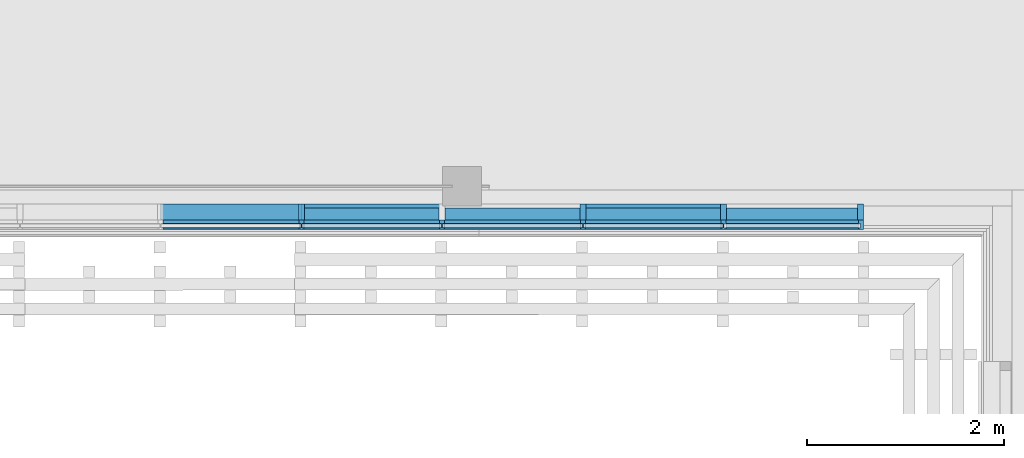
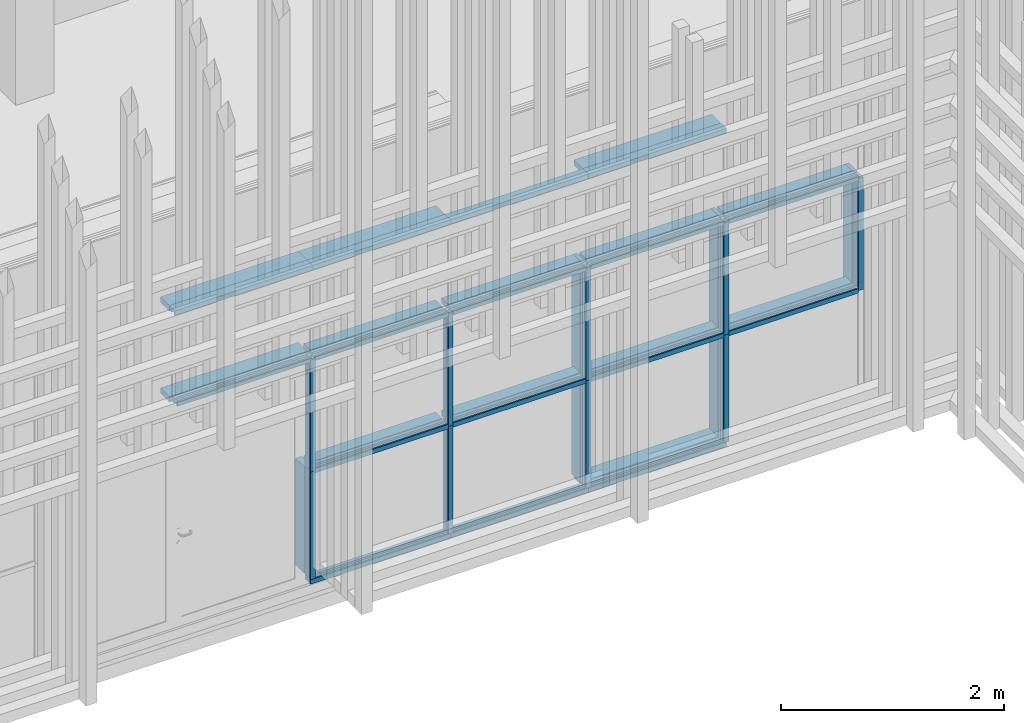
# One storey, part 27 of 260: 44 members, 2 elements without a shape of their own.
"""IFC2X3 building model written with IfcOpenShell, lengths in millimetres."""

from ifc_helpers import new_model, entity, si_unit, converted_unit, derived_unit, money_unit, direction, frame, origin_with_axes, place, context, subcontext, project, spatial, faceted_brep, source, transform, mapped, material, type_object, element, aggregate, save


model = new_model("IFC2X3")

# Units and contexts
model_context = context("Model", 3, precision=0.01, world=origin_with_axes(), true_north=direction((0.0, 1.0)))
body_context = subcontext(model_context, "Body", "Model", "MODEL_VIEW")
ifc_project = project(units=[si_unit("LENGTHUNIT", "METRE", prefix="MILLI"), si_unit("AREAUNIT", "SQUARE_METRE"), si_unit("VOLUMEUNIT", "CUBIC_METRE"), converted_unit("PLANEANGLEUNIT", "DEGREE", entity("IfcPlaneAngleMeasure", 0.0174532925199), si_unit("PLANEANGLEUNIT", "RADIAN"), dimensions=[0, 0, 0, 0, 0, 0, 0]), money_unit("EUR"), converted_unit("TIMEUNIT", "Year", entity("IfcTimeMeasure", 31556926.0), si_unit("TIMEUNIT", "SECOND"), dimensions=[0, 0, 1, 0, 0, 0, 0]), si_unit("MASSUNIT", "GRAM", prefix="KILO"), si_unit("THERMODYNAMICTEMPERATUREUNIT", "DEGREE_CELSIUS"), si_unit("LUMINOUSINTENSITYUNIT", "LUMEN"), si_unit("ENERGYUNIT", "JOULE", prefix="MEGA"), derived_unit("THERMALCONDUCTANCEUNIT", [(si_unit("POWERUNIT", "WATT"), 1), (si_unit("LENGTHUNIT", "METRE"), -1), (si_unit("THERMODYNAMICTEMPERATUREUNIT", "KELVIN"), -1)]), derived_unit("SPECIFICHEATCAPACITYUNIT", [(si_unit("ENERGYUNIT", "JOULE"), 1), (si_unit("MASSUNIT", "GRAM", prefix="KILO"), -1), (si_unit("THERMODYNAMICTEMPERATUREUNIT", "KELVIN"), -1)]), derived_unit("MASSDENSITYUNIT", [(si_unit("MASSUNIT", "GRAM", prefix="KILO"), 1), (si_unit("VOLUMEUNIT", "CUBIC_METRE"), -1)])], contexts=[model_context])

# Site, building, storey
site_placement = place(None, origin_with_axes())
site = spatial("IfcSite", under=ifc_project, at=site_placement, Name="Kolde pst 67a", CompositionType="ELEMENT")
building_placement = place(site_placement, origin_with_axes())
building = spatial("IfcBuilding", under=site, at=building_placement, Name="Riigigümnaasium", CompositionType="ELEMENT")
storey_placement = place(building_placement, origin_with_axes())
storey = spatial("IfcBuildingStorey", under=building, at=storey_placement, Name="1. korrus", CompositionType="ELEMENT", Elevation=0.0)

# Curtain wall, members
curtain_wall_type = type_object("IfcCurtainWallType", Name="Curtain Wall Type", PredefinedType="NOTDEFINED")
curtain_wall_1_placement = place(storey_placement, frame((20393.1746439, 47839.7660528, -0.000116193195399), z_axis=(0.0, 0.0, 1.0), x_axis=(1.0, 0.0, 0.0)))
curtain_wall_1 = element("IfcCurtainWall", 1, at=curtain_wall_1_placement, inside=storey, type_object=curtain_wall_type, Name="KLAASFASSAAD")
ifc_material_1 = material(Name="_METALL - alumiinium")
member_type_1 = type_object("IfcMemberType", Name="Boundary Frame 50 x 100", PredefinedType="MEMBER")
shared_shape_1 = source(origin_with_axes(), body_context, "Body", "Brep", [
    faceted_brep([(-30.0, -24.0, 1430.0), (-50.0, -24.0, 1430.0), (-50.0, -60.0, 1430.0), (0.0, -60.0, 1430.0), (0.0, 40.0, 1430.0), (-50.0, 40.0, 1430.0), (-50.0, 24.0, 1430.0), (-30.0, 24.0, 1430.0), (-30.0, -24.0, 0.0), (-50.0, -24.0, 0.0), (-50.0, -60.0, 0.0), (0.0, -60.0, 0.0), (0.0, 40.0, 0.0), (-50.0, 40.0, 0.0), (-50.0, 24.0, 0.0), (-30.0, 24.0, 0.0)], [[[0, 1, 2, 3, 4, 5, 6, 7]], [[0, 8, 9, 1]], [[9, 10, 2, 1]], [[10, 11, 3, 2]], [[11, 12, 4, 3]], [[12, 13, 5, 4]], [[6, 5, 13, 14]], [[14, 15, 7, 6]], [[7, 15, 8, 0]], [[8, 15, 14, 13, 12, 11, 10, 9]]]),
])
member_1_placement = place(curtain_wall_1_placement, frame((715.0, 0.0, 0.0), z_axis=(-1.0, 0.0, 0.0), x_axis=(0.0, 0.0, 1.0)))
member_1 = element("IfcMember", 2, at=member_1_placement, type_object=member_type_1, material=ifc_material_1, Name="RF RAAM SERV-702", ObjectType="MEMBER", context=body_context, shape_type="MappedRepresentation", body=[
    mapped(shared_shape_1, transform((0.0, 0.0, 0.0), x_axis=(-1.0, 0.0, 0.0), y_axis=(0.0, -1.0, 0.0), z_axis=(0.0, 0.0, 1.0))),
])
member_2_placement = place(curtain_wall_1_placement, frame((-715.0, 0.0, 0.0), z_axis=(-1.0, 0.0, 0.0), x_axis=(0.0, 0.0, 1.0)))
member_2 = element("IfcMember", 3, at=member_2_placement, type_object=member_type_1, material=ifc_material_1, Name="RF RAAM SERV-703", ObjectType="MEMBER", context=body_context, shape_type="MappedRepresentation", body=[
    mapped(shared_shape_1, transform((0.0, 0.0, 0.0), x_axis=(-1.0, 0.0, 0.0), y_axis=(0.0, -1.0, 0.0), z_axis=(0.0, 0.0, 1.0))),
])
member_3_placement = place(curtain_wall_1_placement, frame((-715.0, 0.0, 3490.00021117), z_axis=(1.0, 0.0, -4.73288873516e-08), x_axis=(-4.73288873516e-08, 0.0, -1.0)))
member_3 = element("IfcMember", 4, at=member_3_placement, type_object=member_type_1, material=ifc_material_1, Name="RF RAAM SERV-718", ObjectType="MEMBER", context=body_context, shape_type="MappedRepresentation", body=[
    mapped(shared_shape_1, transform((0.0, 0.0, 0.0), x_axis=(-1.0, 0.0, -4.73288873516e-08), y_axis=(0.0, -1.0, 0.0), z_axis=(-4.73288873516e-08, 0.0, 1.0))),
])
member_4_placement = place(curtain_wall_1_placement, frame((-2145.0, 0.0, 3490.00021117), z_axis=(1.0, 0.0, 0.0), x_axis=(0.0, 0.0, -1.0)))
member_4 = element("IfcMember", 5, at=member_4_placement, type_object=member_type_1, material=ifc_material_1, Name="RF RAAM SERV-717", ObjectType="MEMBER", context=body_context, shape_type="MappedRepresentation", body=[
    mapped(shared_shape_1, transform((0.0, 0.0, 0.0), x_axis=(-1.0, 0.0, 0.0), y_axis=(0.0, -1.0, 0.0), z_axis=(0.0, 0.0, 1.0))),
])
member_5_placement = place(curtain_wall_1_placement, frame((-3575.0, 0.0, 3490.00021117), z_axis=(1.0, 0.0, 0.0), x_axis=(0.0, 0.0, -1.0)))
member_5 = element("IfcMember", 6, at=member_5_placement, type_object=member_type_1, material=ifc_material_1, Name="RF RAAM SERV-716", ObjectType="MEMBER", context=body_context, shape_type="MappedRepresentation", body=[
    mapped(shared_shape_1, transform((0.0, 0.0, 0.0), x_axis=(-1.0, 0.0, 0.0), y_axis=(0.0, -1.0, 0.0), z_axis=(0.0, 0.0, 1.0))),
])
member_6_placement = place(curtain_wall_1_placement, frame((-5005.0, 0.0, 3490.00021117), z_axis=(1.0, 0.0, 0.0), x_axis=(0.0, 0.0, -1.0)))
member_6 = element("IfcMember", 7, at=member_6_placement, type_object=member_type_1, material=ifc_material_1, Name="RF RAAM SERV-715", ObjectType="MEMBER", context=body_context, shape_type="MappedRepresentation", body=[
    mapped(shared_shape_1, transform((0.0, 0.0, 0.0), x_axis=(-1.0, 0.0, 0.0), y_axis=(0.0, -1.0, 0.0), z_axis=(0.0, 0.0, 1.0))),
])
member_type_2 = type_object("IfcMemberType", Name="Mullion Frame 50 x 100", PredefinedType="MEMBER")
shared_shape_2 = source(origin_with_axes(), body_context, "Body", "Brep", [
    faceted_brep([(5.0, -24.0, 1230.00011619), (5.0, 24.0, 1230.00011619), (25.0, 24.0, 1230.00011619), (25.0, 40.0, 1230.00011619), (-25.0, 40.0, 1230.00011619), (-25.0, 24.0, 1230.00011619), (-5.0, 24.0, 1230.00011619), (-5.0, -24.0, 1230.00011619), (-25.0, -24.0, 1230.00011619), (-25.0, -60.0, 1230.00011619), (25.0, -60.0, 1230.00011619), (25.0, -24.0, 1230.00011619), (5.0, -24.0, 50.0), (5.0, 24.0, 50.0), (25.0, 24.0, 50.0), (25.0, 40.0, 50.0), (-25.0, 40.0, 50.0), (-25.0, 24.0, 50.0), (-5.0, 24.0, 50.0), (-5.0, -24.0, 50.0), (-25.0, -24.0, 50.0), (-25.0, -60.0, 50.0), (25.0, -60.0, 50.0), (25.0, -24.0, 50.0)], [[[0, 1, 2, 3, 4, 5, 6, 7, 8, 9, 10, 11]], [[0, 12, 13, 1]], [[1, 13, 14, 2]], [[14, 15, 3, 2]], [[4, 3, 15, 16]], [[17, 5, 4, 16]], [[5, 17, 18, 6]], [[7, 6, 18, 19]], [[8, 7, 19, 20]], [[8, 20, 21, 9]], [[10, 9, 21, 22]], [[11, 10, 22, 23]], [[11, 23, 12, 0]], [[13, 12, 23, 22, 21, 20, 19, 18, 17, 16, 15, 14]]]),
])
member_7_placement = place(curtain_wall_1_placement, frame((715.0, 0.0, 0.0), z_axis=(0.0, 0.0, 1.0), x_axis=(1.0, 0.0, 0.0)))
member_7 = element("IfcMember", 8, at=member_7_placement, type_object=member_type_2, material=ifc_material_1, Name="RF RAAM VERT-345", ObjectType="MEMBER", context=body_context, shape_type="MappedRepresentation", body=[
    mapped(shared_shape_2, transform((0.0, 0.0, 0.0), x_axis=(-1.0, 0.0, 0.0), y_axis=(0.0, -1.0, 0.0), z_axis=(0.0, 0.0, 1.0))),
])
member_8_placement = place(curtain_wall_1_placement, frame((-715.0, 0.0, 0.0), z_axis=(0.0, 0.0, 1.0), x_axis=(1.0, 0.0, 0.0)))
member_8 = element("IfcMember", 9, at=member_8_placement, type_object=member_type_2, material=ifc_material_1, Name="RF RAAM VERT-346", ObjectType="MEMBER", context=body_context, shape_type="MappedRepresentation", body=[
    mapped(shared_shape_2, transform((0.0, 0.0, 0.0), x_axis=(-1.0, 0.0, 0.0), y_axis=(0.0, -1.0, 0.0), z_axis=(0.0, 0.0, 1.0))),
])
member_9_placement = place(curtain_wall_1_placement, frame((-2145.0, 0.0, 0.0), z_axis=(0.0, 0.0, 1.0), x_axis=(1.0, 0.0, 0.0)))
member_9 = element("IfcMember", 10, at=member_9_placement, type_object=member_type_2, material=ifc_material_1, Name="RF RAAM VERT-347", ObjectType="MEMBER", context=body_context, shape_type="MappedRepresentation", body=[
    mapped(shared_shape_2, transform((0.0, 0.0, 0.0), x_axis=(-1.0, 0.0, 0.0), y_axis=(0.0, -1.0, 0.0), z_axis=(0.0, 0.0, 1.0))),
])
member_10_placement = place(curtain_wall_1_placement, frame((-3575.0, 0.0, 0.0), z_axis=(0.0, 0.0, 1.0), x_axis=(1.0, 0.0, 0.0)))
member_10 = element("IfcMember", 11, at=member_10_placement, type_object=member_type_2, material=ifc_material_1, Name="RF RAAM VERT-348", ObjectType="MEMBER", context=body_context, shape_type="MappedRepresentation", body=[
    mapped(shared_shape_2, transform((0.0, 0.0, 0.0), x_axis=(-1.0, 0.0, 0.0), y_axis=(0.0, -1.0, 0.0), z_axis=(0.0, 0.0, 1.0))),
])
shared_shape_3 = source(origin_with_axes(), body_context, "Body", "Brep", [
    faceted_brep([(-30.0, -24.0, 1455.0), (-50.0, -24.0, 1455.0), (-50.0, -60.0, 1455.0), (0.0, -60.0, 1455.0), (0.0, 40.0, 1455.0), (-50.0, 40.0, 1455.0), (-50.0, 24.0, 1455.0), (-30.0, 24.0, 1455.0), (-30.0, -24.0, 0.0), (-50.0, -24.0, 0.0), (-50.0, -60.0, 0.0), (0.0, -60.0, 0.0), (0.0, 40.0, 0.0), (-50.0, 40.0, 0.0), (-50.0, 24.0, 0.0), (-30.0, 24.0, 0.0)], [[[0, 1, 2, 3, 4, 5, 6, 7]], [[0, 8, 9, 1]], [[9, 10, 2, 1]], [[10, 11, 3, 2]], [[11, 12, 4, 3]], [[12, 13, 5, 4]], [[6, 5, 13, 14]], [[14, 15, 7, 6]], [[7, 15, 8, 0]], [[8, 15, 14, 13, 12, 11, 10, 9]]]),
])
member_11_placement = place(curtain_wall_1_placement, frame((-2145.0, 0.0, 0.0), z_axis=(-1.0, 0.0, 0.0), x_axis=(0.0, 0.0, 1.0)))
member_11 = element("IfcMember", 12, at=member_11_placement, type_object=member_type_1, material=ifc_material_1, Name="RF RAAM SERV-704", ObjectType="MEMBER", context=body_context, shape_type="MappedRepresentation", body=[
    mapped(shared_shape_3, transform((0.0, 0.0, 0.0), x_axis=(-1.0, 0.0, 0.0), y_axis=(0.0, -1.0, 0.0), z_axis=(0.0, 0.0, 1.0))),
])
member_type_3 = type_object("IfcMemberType", Name="Transom Frame 50 x 100", PredefinedType="MEMBER")
shared_shape_4 = source(origin_with_axes(), body_context, "Body", "Brep", [
    faceted_brep([(5.0, -24.0, 1395.44646826), (5.0, 24.0, 1395.44646826), (25.0, 24.0, 1395.44646826), (25.0, 40.0, 1395.44646826), (-25.0, 40.0, 1395.44646826), (-25.0, 24.0, 1395.44646826), (-5.0, 24.0, 1395.44646826), (-5.0, -24.0, 1395.44646826), (-25.0, -24.0, 1395.44646826), (-25.0, -60.0, 1395.44646826), (25.0, -60.0, 1395.44646826), (25.0, -24.0, 1395.44646826), (5.0, -24.0, 50.0), (5.0, 24.0, 50.0), (25.0, 24.0, 50.0), (25.0, 40.0, 50.0), (-25.0, 40.0, 50.0), (-25.0, 24.0, 50.0), (-5.0, 24.0, 50.0), (-5.0, -24.0, 50.0), (-25.0, -24.0, 50.0), (-25.0, -60.0, 50.0), (25.0, -60.0, 50.0), (25.0, -24.0, 50.0)], [[[0, 1, 2, 3, 4, 5, 6, 7, 8, 9, 10, 11]], [[0, 12, 13, 1]], [[1, 13, 14, 2]], [[14, 15, 3, 2]], [[4, 3, 15, 16]], [[17, 5, 4, 16]], [[5, 17, 18, 6]], [[7, 6, 18, 19]], [[8, 7, 19, 20]], [[8, 20, 21, 9]], [[10, 9, 21, 22]], [[11, 10, 22, 23]], [[11, 23, 12, 0]], [[13, 12, 23, 22, 21, 20, 19, 18, 17, 16, 15, 14]]]),
])
member_12_placement = place(curtain_wall_1_placement, frame((2135.44646826, 0.0, 1230.00011619), z_axis=(-1.0, 0.0, 0.0), x_axis=(0.0, 0.0, 1.0)))
member_12 = element("IfcMember", 13, at=member_12_placement, type_object=member_type_3, material=ifc_material_1, Name="RF RAAM HOR-217", ObjectType="MEMBER", context=body_context, shape_type="MappedRepresentation", body=[
    mapped(shared_shape_4, transform((0.0, 0.0, 0.0), x_axis=(-1.0, 0.0, 0.0), y_axis=(0.0, -1.0, 0.0), z_axis=(0.0, 0.0, 1.0))),
])
member_13_placement = place(curtain_wall_1_placement, frame((2135.44646826, 0.0, 2460.00011619), z_axis=(-1.0, 0.0, 0.0), x_axis=(0.0, 0.0, 1.0)))
member_13 = element("IfcMember", 14, at=member_13_placement, type_object=member_type_3, material=ifc_material_1, Name="RF RAAM HOR-226", ObjectType="MEMBER", context=body_context, shape_type="MappedRepresentation", body=[
    mapped(shared_shape_4, transform((0.0, 0.0, 0.0), x_axis=(-1.0, 0.0, 0.0), y_axis=(0.0, -1.0, 0.0), z_axis=(0.0, 0.0, 1.0))),
])
shared_shape_5 = source(origin_with_axes(), body_context, "Body", "Brep", [
    faceted_brep([(5.0, -24.0, 1405.0), (5.0, 24.0, 1405.0), (25.0, 24.0, 1405.0), (25.0, 40.0, 1405.0), (-25.0, 40.0, 1405.0), (-25.0, 24.0, 1405.0), (-5.0, 24.0, 1405.0), (-5.0, -24.0, 1405.0), (-25.0, -24.0, 1405.0), (-25.0, -60.0, 1405.0), (25.0, -60.0, 1405.0), (25.0, -24.0, 1405.0), (5.0, -24.0, 25.0), (5.0, 24.0, 25.0), (25.0, 24.0, 25.0), (25.0, 40.0, 25.0), (-25.0, 40.0, 25.0), (-25.0, 24.0, 25.0), (-5.0, 24.0, 25.0), (-5.0, -24.0, 25.0), (-25.0, -24.0, 25.0), (-25.0, -60.0, 25.0), (25.0, -60.0, 25.0), (25.0, -24.0, 25.0)], [[[0, 1, 2, 3, 4, 5, 6, 7, 8, 9, 10, 11]], [[0, 12, 13, 1]], [[1, 13, 14, 2]], [[14, 15, 3, 2]], [[4, 3, 15, 16]], [[17, 5, 4, 16]], [[5, 17, 18, 6]], [[7, 6, 18, 19]], [[8, 7, 19, 20]], [[8, 20, 21, 9]], [[10, 9, 21, 22]], [[11, 10, 22, 23]], [[11, 23, 12, 0]], [[13, 12, 23, 22, 21, 20, 19, 18, 17, 16, 15, 14]]]),
])
member_14_placement = place(curtain_wall_1_placement, frame((715.0, 0.0, 1230.00011619), z_axis=(-1.0, 0.0, 0.0), x_axis=(0.0, 0.0, 1.0)))
member_14 = element("IfcMember", 15, at=member_14_placement, type_object=member_type_3, material=ifc_material_1, Name="RF RAAM HOR-218", ObjectType="MEMBER", context=body_context, shape_type="MappedRepresentation", body=[
    mapped(shared_shape_5, transform((0.0, 0.0, 0.0), x_axis=(-1.0, 0.0, 0.0), y_axis=(0.0, -1.0, 0.0), z_axis=(0.0, 0.0, 1.0))),
])
member_15_placement = place(curtain_wall_1_placement, frame((-715.0, 0.0, 1230.00011619), z_axis=(-1.0, 0.0, 0.0), x_axis=(0.0, 0.0, 1.0)))
member_15 = element("IfcMember", 16, at=member_15_placement, type_object=member_type_3, material=ifc_material_1, Name="RF RAAM HOR-219", ObjectType="MEMBER", context=body_context, shape_type="MappedRepresentation", body=[
    mapped(shared_shape_5, transform((0.0, 0.0, 0.0), x_axis=(-1.0, 0.0, 0.0), y_axis=(0.0, -1.0, 0.0), z_axis=(0.0, 0.0, 1.0))),
])
member_16_placement = place(curtain_wall_1_placement, frame((-2145.0, 0.0, 1230.00011619), z_axis=(-1.0, 0.0, 0.0), x_axis=(0.0, 0.0, 1.0)))
member_16 = element("IfcMember", 17, at=member_16_placement, type_object=member_type_3, material=ifc_material_1, Name="RF RAAM HOR-220", ObjectType="MEMBER", context=body_context, shape_type="MappedRepresentation", body=[
    mapped(shared_shape_5, transform((0.0, 0.0, 0.0), x_axis=(-1.0, 0.0, 0.0), y_axis=(0.0, -1.0, 0.0), z_axis=(0.0, 0.0, 1.0))),
])
member_17_placement = place(curtain_wall_1_placement, frame((715.0, 0.0, 2460.00011619), z_axis=(-1.0, 0.0, 0.0), x_axis=(0.0, 0.0, 1.0)))
member_17 = element("IfcMember", 18, at=member_17_placement, type_object=member_type_3, material=ifc_material_1, Name="RF RAAM HOR-227", ObjectType="MEMBER", context=body_context, shape_type="MappedRepresentation", body=[
    mapped(shared_shape_5, transform((0.0, 0.0, 0.0), x_axis=(-1.0, 0.0, 0.0), y_axis=(0.0, -1.0, 0.0), z_axis=(0.0, 0.0, 1.0))),
])
member_18_placement = place(curtain_wall_1_placement, frame((-715.0, 0.0, 2460.00011619), z_axis=(-1.0, 0.0, 0.0), x_axis=(0.0, 0.0, 1.0)))
member_18 = element("IfcMember", 19, at=member_18_placement, type_object=member_type_3, material=ifc_material_1, Name="RF RAAM HOR-228", ObjectType="MEMBER", context=body_context, shape_type="MappedRepresentation", body=[
    mapped(shared_shape_5, transform((0.0, 0.0, 0.0), x_axis=(-1.0, 0.0, 0.0), y_axis=(0.0, -1.0, 0.0), z_axis=(0.0, 0.0, 1.0))),
])
member_19_placement = place(curtain_wall_1_placement, frame((-2145.0, 0.0, 2460.00011619), z_axis=(-1.0, 0.0, 0.0), x_axis=(0.0, 0.0, 1.0)))
member_19 = element("IfcMember", 20, at=member_19_placement, type_object=member_type_3, material=ifc_material_1, Name="RF RAAM HOR-229", ObjectType="MEMBER", context=body_context, shape_type="MappedRepresentation", body=[
    mapped(shared_shape_5, transform((0.0, 0.0, 0.0), x_axis=(-1.0, 0.0, 0.0), y_axis=(0.0, -1.0, 0.0), z_axis=(0.0, 0.0, 1.0))),
])
member_20_placement = place(curtain_wall_1_placement, frame((-3575.0, 0.0, 2460.00011619), z_axis=(-1.0, 0.0, 0.0), x_axis=(0.0, 0.0, 1.0)))
member_20 = element("IfcMember", 21, at=member_20_placement, type_object=member_type_3, material=ifc_material_1, Name="RF RAAM HOR-230", ObjectType="MEMBER", context=body_context, shape_type="MappedRepresentation", body=[
    mapped(shared_shape_5, transform((0.0, 0.0, 0.0), x_axis=(-1.0, 0.0, 0.0), y_axis=(0.0, -1.0, 0.0), z_axis=(0.0, 0.0, 1.0))),
])
shared_shape_6 = source(origin_with_axes(), body_context, "Body", "Brep", [
    faceted_brep([(5.0, -24.0, 1230.0), (5.0, 24.0, 1230.0), (25.0, 24.0, 1230.0), (25.0, 40.0, 1230.0), (-25.0, 40.0, 1230.0), (-25.0, 24.0, 1230.0), (-5.0, 24.0, 1230.0), (-5.0, -24.0, 1230.0), (-25.0, -24.0, 1230.0), (-25.0, -60.0, 1230.0), (25.0, -60.0, 1230.0), (25.0, -24.0, 1230.0), (5.0, -24.0, 0.0), (5.0, 24.0, 0.0), (25.0, 24.0, 0.0), (25.0, 40.0, 0.0), (-25.0, 40.0, 0.0), (-25.0, 24.0, 0.0), (-5.0, 24.0, 0.0), (-5.0, -24.0, 0.0), (-25.0, -24.0, 0.0), (-25.0, -60.0, 0.0), (25.0, -60.0, 0.0), (25.0, -24.0, 0.0)], [[[0, 1, 2, 3, 4, 5, 6, 7, 8, 9, 10, 11]], [[0, 12, 13, 1]], [[1, 13, 14, 2]], [[14, 15, 3, 2]], [[3, 15, 16, 4]], [[17, 5, 4, 16]], [[5, 17, 18, 6]], [[7, 6, 18, 19]], [[8, 7, 19, 20]], [[8, 20, 21, 9]], [[9, 21, 22, 10]], [[11, 10, 22, 23]], [[11, 23, 12, 0]], [[13, 12, 23, 22, 21, 20, 19, 18, 17, 16, 15, 14]]]),
])
member_21_placement = place(curtain_wall_1_placement, frame((715.0, 0.0, 1230.00011619), z_axis=(0.0, 0.0, 1.0), x_axis=(1.0, 0.0, 0.0)))
member_21 = element("IfcMember", 22, at=member_21_placement, type_object=member_type_2, material=ifc_material_1, Name="RF RAAM VERT-353", ObjectType="MEMBER", context=body_context, shape_type="MappedRepresentation", body=[
    mapped(shared_shape_6, transform((0.0, 0.0, 0.0), x_axis=(-1.0, 0.0, 0.0), y_axis=(0.0, -1.0, 0.0), z_axis=(0.0, 0.0, 1.0))),
])
member_22_placement = place(curtain_wall_1_placement, frame((-715.0, 0.0, 1230.00011619), z_axis=(0.0, 0.0, 1.0), x_axis=(1.0, 0.0, 0.0)))
member_22 = element("IfcMember", 23, at=member_22_placement, type_object=member_type_2, material=ifc_material_1, Name="RF RAAM VERT-354", ObjectType="MEMBER", context=body_context, shape_type="MappedRepresentation", body=[
    mapped(shared_shape_6, transform((0.0, 0.0, 0.0), x_axis=(-1.0, 0.0, 0.0), y_axis=(0.0, -1.0, 0.0), z_axis=(0.0, 0.0, 1.0))),
])
member_23_placement = place(curtain_wall_1_placement, frame((-2145.0, 0.0, 1230.00011619), z_axis=(0.0, 0.0, 1.0), x_axis=(1.0, 0.0, 0.0)))
member_23 = element("IfcMember", 24, at=member_23_placement, type_object=member_type_2, material=ifc_material_1, Name="RF RAAM VERT-355", ObjectType="MEMBER", context=body_context, shape_type="MappedRepresentation", body=[
    mapped(shared_shape_6, transform((0.0, 0.0, 0.0), x_axis=(-1.0, 0.0, 0.0), y_axis=(0.0, -1.0, 0.0), z_axis=(0.0, 0.0, 1.0))),
])
member_24_placement = place(curtain_wall_1_placement, frame((-3575.0, 0.0, 1230.00011619), z_axis=(0.0, 0.0, 1.0), x_axis=(1.0, 0.0, 0.0)))
member_24 = element("IfcMember", 25, at=member_24_placement, type_object=member_type_2, material=ifc_material_1, Name="RF RAAM VERT-356", ObjectType="MEMBER", context=body_context, shape_type="MappedRepresentation", body=[
    mapped(shared_shape_6, transform((0.0, 0.0, 0.0), x_axis=(-1.0, 0.0, 0.0), y_axis=(0.0, -1.0, 0.0), z_axis=(0.0, 0.0, 1.0))),
])
shared_shape_7 = source(origin_with_axes(), body_context, "Body", "Brep", [
    faceted_brep([(-30.0, -24.0, 1230.0), (-50.0, -24.0, 1230.0), (-50.0, -60.0, 1230.0), (0.0, -60.0, 1230.0), (0.0, 40.0, 1230.0), (-50.0, 40.0, 1230.0), (-50.0, 24.0, 1230.0), (-30.0, 24.0, 1230.0), (-30.0, -24.0, -2.17989071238e-06), (-50.0, -24.0, -2.17989060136e-06), (-50.0, -60.0, -2.17989060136e-06), (0.0, -60.0, -2.17989060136e-06), (0.0, 40.0, -2.17989060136e-06), (-50.0, 40.0, -2.17989060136e-06), (-50.0, 24.0, -2.17989060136e-06), (-30.0, 24.0, -2.17989071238e-06)], [[[0, 1, 2, 3, 4, 5, 6, 7]], [[0, 8, 9, 1]], [[9, 10, 2, 1]], [[10, 11, 3, 2]], [[11, 12, 4, 3]], [[12, 13, 5, 4]], [[6, 5, 13, 14]], [[14, 15, 7, 6]], [[7, 15, 8, 0]], [[8, 15, 14, 13, 12, 11, 10, 9]]]),
])
member_25_placement = place(curtain_wall_1_placement, frame((2135.44646826, 0.0, 2460.00011619), z_axis=(0.0, 0.0, -1.0), x_axis=(-1.0, 0.0, 0.0)))
member_25 = element("IfcMember", 26, at=member_25_placement, type_object=member_type_1, material=ifc_material_1, Name="RF RAAM SERV-721", ObjectType="MEMBER", context=body_context, shape_type="MappedRepresentation", body=[
    mapped(shared_shape_7, transform((0.0, 0.0, 0.0), x_axis=(-1.0, 0.0, 0.0), y_axis=(0.0, -1.0, 0.0), z_axis=(0.0, 0.0, 1.0))),
])
aggregate(curtain_wall_1, [member_1, member_7, member_2, member_8, member_11, member_9, member_10, member_12, member_14, member_21, member_15, member_22, member_16, member_23, member_24, member_13, member_17, member_18, member_19, member_20, member_25, member_3, member_4, member_5, member_6])

curtain_wall_2_placement = place(storey_placement, frame((20393.1747334, 47899.7660528, -0.000116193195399), z_axis=(0.0, 0.0, 1.0), x_axis=(1.0, 0.0, 0.0)))
curtain_wall_2 = element("IfcCurtainWall", 27, at=curtain_wall_2_placement, inside=storey, type_object=curtain_wall_type, Name="Klaasfassaadi puitkarkass")
ifc_material_2 = material(Name="_KANDETARIND - liimpuit vastavalt EK osale")
member_type_4 = type_object("IfcMemberType", Name="Boundary Frame 60 x 160", PredefinedType="MEMBER")
shared_shape_8 = source(origin_with_axes(), body_context, "Body", "Brep", [
    faceted_brep([(-60.0, -160.0, 0.0), (-60.0, -160.0, 1430.0), (-60.0, 0.0, 1430.0), (-60.0, 0.0, 0.0), (0.0, -160.0, 0.0), (0.0, -160.0, 1430.0), (0.0, 0.0, 1430.0), (0.0, 0.0, 0.0)], [[[0, 1, 2, 3]], [[4, 5, 1, 0]], [[1, 5, 6, 2]], [[3, 2, 6, 7]], [[0, 3, 7, 4]], [[7, 6, 5, 4]]]),
])
member_26_placement = place(curtain_wall_2_placement, frame((715.0, 0.0, 0.0), z_axis=(-1.0, 0.0, 0.0), x_axis=(0.0, 0.0, 1.0)))
member_26 = element("IfcMember", 28, at=member_26_placement, type_object=member_type_4, material=ifc_material_2, Name="RF RAAM SERV-524", ObjectType="MEMBER", context=body_context, shape_type="MappedRepresentation", body=[
    mapped(shared_shape_8, transform((0.0, 0.0, 0.0), x_axis=(-1.0, 0.0, 0.0), y_axis=(0.0, -1.0, 0.0), z_axis=(0.0, 0.0, 1.0))),
])
member_27_placement = place(curtain_wall_2_placement, frame((-715.0, 0.0, 3490.00021117), z_axis=(1.0, 0.0, -4.73288873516e-08), x_axis=(-4.73288873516e-08, 0.0, -1.0)))
member_27 = element("IfcMember", 29, at=member_27_placement, type_object=member_type_4, material=ifc_material_2, Name="RF RAAM SERV-631", ObjectType="MEMBER", context=body_context, shape_type="MappedRepresentation", body=[
    mapped(shared_shape_8, transform((0.0, 0.0, 0.0), x_axis=(-1.0, 0.0, -4.73288873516e-08), y_axis=(0.0, -1.0, 0.0), z_axis=(-4.73288873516e-08, 0.0, 1.0))),
])
member_28_placement = place(curtain_wall_2_placement, frame((-3575.0, 0.0, 3490.00021117), z_axis=(1.0, 0.0, 0.0), x_axis=(0.0, 0.0, -1.0)))
member_28 = element("IfcMember", 30, at=member_28_placement, type_object=member_type_4, material=ifc_material_2, Name="RF RAAM SERV-629", ObjectType="MEMBER", context=body_context, shape_type="MappedRepresentation", body=[
    mapped(shared_shape_8, transform((0.0, 0.0, 0.0), x_axis=(-1.0, 0.0, 0.0), y_axis=(0.0, -1.0, 0.0), z_axis=(0.0, 0.0, 1.0))),
])
member_29_placement = place(curtain_wall_2_placement, frame((-5005.0, 0.0, 3490.00021117), z_axis=(1.0, 0.0, 0.0), x_axis=(0.0, 0.0, -1.0)))
member_29 = element("IfcMember", 31, at=member_29_placement, type_object=member_type_4, material=ifc_material_2, Name="RF RAAM SERV-628", ObjectType="MEMBER", context=body_context, shape_type="MappedRepresentation", body=[
    mapped(shared_shape_8, transform((0.0, 0.0, 0.0), x_axis=(-1.0, 0.0, 0.0), y_axis=(0.0, -1.0, 0.0), z_axis=(0.0, 0.0, 1.0))),
])
member_type_5 = type_object("IfcMemberType", Name="Mullion Frame 60 x 160", PredefinedType="MEMBER")
shared_shape_9 = source(origin_with_axes(), body_context, "Body", "Brep", [
    faceted_brep([(-30.0, 0.0, 60.0), (-30.0, -160.0, 60.0), (-30.0, -160.0, 1230.00011619), (-30.0, 0.0, 1230.00011619), (30.0, 0.0, 60.0), (30.0, -160.0, 60.0), (30.0, -160.0, 1230.00011619), (30.0, 0.0, 1230.00011619)], [[[0, 1, 2, 3]], [[1, 0, 4, 5]], [[1, 5, 6, 2]], [[2, 6, 7, 3]], [[4, 0, 3, 7]], [[5, 4, 7, 6]]]),
])
member_30_placement = place(curtain_wall_2_placement, frame((715.0, 0.0, 0.0), z_axis=(0.0, 0.0, 1.0), x_axis=(1.0, 0.0, 0.0)))
member_30 = element("IfcMember", 32, at=member_30_placement, type_object=member_type_5, material=ifc_material_2, Name="RF RAAM VERT-345", ObjectType="MEMBER", context=body_context, shape_type="MappedRepresentation", body=[
    mapped(shared_shape_9, transform((0.0, 0.0, 0.0), x_axis=(-1.0, 0.0, 0.0), y_axis=(0.0, -1.0, 0.0), z_axis=(0.0, 0.0, 1.0))),
])
member_31_placement = place(curtain_wall_2_placement, frame((-715.0, 0.0, 0.0), z_axis=(0.0, 0.0, 1.0), x_axis=(1.0, 0.0, 0.0)))
member_31 = element("IfcMember", 33, at=member_31_placement, type_object=member_type_5, material=ifc_material_2, Name="RF RAAM VERT-346", ObjectType="MEMBER", context=body_context, shape_type="MappedRepresentation", body=[
    mapped(shared_shape_9, transform((0.0, 0.0, 0.0), x_axis=(-1.0, 0.0, 0.0), y_axis=(0.0, -1.0, 0.0), z_axis=(0.0, 0.0, 1.0))),
])
member_32_placement = place(curtain_wall_2_placement, frame((-3575.0, 0.0, 0.0), z_axis=(0.0, 0.0, 1.0), x_axis=(1.0, 0.0, 0.0)))
member_32 = element("IfcMember", 34, at=member_32_placement, type_object=member_type_5, material=ifc_material_2, Name="RF RAAM VERT-348", ObjectType="MEMBER", context=body_context, shape_type="MappedRepresentation", body=[
    mapped(shared_shape_9, transform((0.0, 0.0, 0.0), x_axis=(-1.0, 0.0, 0.0), y_axis=(0.0, -1.0, 0.0), z_axis=(0.0, 0.0, 1.0))),
])
member_type_6 = type_object("IfcMemberType", Name="Transom Frame 60 x 120", PredefinedType="MEMBER")
shared_shape_10 = source(origin_with_axes(), body_context, "Body", "Brep", [
    faceted_brep([(-30.0, 0.0, 60.0), (-30.0, -120.0, 60.0), (-30.0, -120.0, 1390.44646826), (-30.0, 0.0, 1390.44646826), (30.0, 0.0, 60.0), (30.0, -120.0, 60.0), (30.0, -120.0, 1390.44646826), (30.0, 0.0, 1390.44646826)], [[[0, 1, 2, 3]], [[1, 0, 4, 5]], [[1, 5, 6, 2]], [[2, 6, 7, 3]], [[4, 0, 3, 7]], [[5, 4, 7, 6]]]),
])
member_33_placement = place(curtain_wall_2_placement, frame((2135.44646826, 0.0, 1230.00011619), z_axis=(-1.0, 0.0, 0.0), x_axis=(0.0, 0.0, 1.0)))
member_33 = element("IfcMember", 35, at=member_33_placement, type_object=member_type_6, material=ifc_material_2, Name="RF RAAM HOR-217", ObjectType="MEMBER", context=body_context, shape_type="MappedRepresentation", body=[
    mapped(shared_shape_10, transform((0.0, 0.0, 0.0), x_axis=(-1.0, 0.0, 0.0), y_axis=(0.0, -1.0, 0.0), z_axis=(0.0, 0.0, 1.0))),
])
member_34_placement = place(curtain_wall_2_placement, frame((2135.44646826, 0.0, 2460.00011619), z_axis=(-1.0, 0.0, 0.0), x_axis=(0.0, 0.0, 1.0)))
member_34 = element("IfcMember", 36, at=member_34_placement, type_object=member_type_6, material=ifc_material_2, Name="RF RAAM HOR-226", ObjectType="MEMBER", context=body_context, shape_type="MappedRepresentation", body=[
    mapped(shared_shape_10, transform((0.0, 0.0, 0.0), x_axis=(-1.0, 0.0, 0.0), y_axis=(0.0, -1.0, 0.0), z_axis=(0.0, 0.0, 1.0))),
])
shared_shape_11 = source(origin_with_axes(), body_context, "Body", "Brep", [
    faceted_brep([(-30.0, 0.0, 30.0), (-30.0, -120.0, 30.0), (-30.0, -120.0, 1400.0), (-30.0, 0.0, 1400.0), (30.0, 0.0, 30.0), (30.0, -120.0, 30.0), (30.0, -120.0, 1400.0), (30.0, 0.0, 1400.0)], [[[0, 1, 2, 3]], [[1, 0, 4, 5]], [[1, 5, 6, 2]], [[2, 6, 7, 3]], [[4, 0, 3, 7]], [[5, 4, 7, 6]]]),
])
member_35_placement = place(curtain_wall_2_placement, frame((715.0, 0.0, 1230.00011619), z_axis=(-1.0, 0.0, 0.0), x_axis=(0.0, 0.0, 1.0)))
member_35 = element("IfcMember", 37, at=member_35_placement, type_object=member_type_6, material=ifc_material_2, Name="RF RAAM HOR-218", ObjectType="MEMBER", context=body_context, shape_type="MappedRepresentation", body=[
    mapped(shared_shape_11, transform((0.0, 0.0, 0.0), x_axis=(-1.0, 0.0, 0.0), y_axis=(0.0, -1.0, 0.0), z_axis=(0.0, 0.0, 1.0))),
])
member_36_placement = place(curtain_wall_2_placement, frame((-715.0, 0.0, 1230.00011619), z_axis=(-1.0, 0.0, 0.0), x_axis=(0.0, 0.0, 1.0)))
member_36 = element("IfcMember", 38, at=member_36_placement, type_object=member_type_6, material=ifc_material_2, Name="RF RAAM HOR-219", ObjectType="MEMBER", context=body_context, shape_type="MappedRepresentation", body=[
    mapped(shared_shape_11, transform((0.0, 0.0, 0.0), x_axis=(-1.0, 0.0, 0.0), y_axis=(0.0, -1.0, 0.0), z_axis=(0.0, 0.0, 1.0))),
])
member_37_placement = place(curtain_wall_2_placement, frame((-2145.0, 0.0, 1230.00011619), z_axis=(-1.0, 0.0, 0.0), x_axis=(0.0, 0.0, 1.0)))
member_37 = element("IfcMember", 39, at=member_37_placement, type_object=member_type_6, material=ifc_material_2, Name="RF RAAM HOR-220", ObjectType="MEMBER", context=body_context, shape_type="MappedRepresentation", body=[
    mapped(shared_shape_11, transform((0.0, 0.0, 0.0), x_axis=(-1.0, 0.0, 0.0), y_axis=(0.0, -1.0, 0.0), z_axis=(0.0, 0.0, 1.0))),
])
member_38_placement = place(curtain_wall_2_placement, frame((715.0, 0.0, 2460.00011619), z_axis=(-1.0, 0.0, 0.0), x_axis=(0.0, 0.0, 1.0)))
member_38 = element("IfcMember", 40, at=member_38_placement, type_object=member_type_6, material=ifc_material_2, Name="RF RAAM HOR-227", ObjectType="MEMBER", context=body_context, shape_type="MappedRepresentation", body=[
    mapped(shared_shape_11, transform((0.0, 0.0, 0.0), x_axis=(-1.0, 0.0, 0.0), y_axis=(0.0, -1.0, 0.0), z_axis=(0.0, 0.0, 1.0))),
])
member_39_placement = place(curtain_wall_2_placement, frame((-715.0, 0.0, 2460.00011619), z_axis=(-1.0, 0.0, 0.0), x_axis=(0.0, 0.0, 1.0)))
member_39 = element("IfcMember", 41, at=member_39_placement, type_object=member_type_6, material=ifc_material_2, Name="RF RAAM HOR-228", ObjectType="MEMBER", context=body_context, shape_type="MappedRepresentation", body=[
    mapped(shared_shape_11, transform((0.0, 0.0, 0.0), x_axis=(-1.0, 0.0, 0.0), y_axis=(0.0, -1.0, 0.0), z_axis=(0.0, 0.0, 1.0))),
])
member_40_placement = place(curtain_wall_2_placement, frame((-2145.0, 0.0, 2460.00011619), z_axis=(-1.0, 0.0, 0.0), x_axis=(0.0, 0.0, 1.0)))
member_40 = element("IfcMember", 42, at=member_40_placement, type_object=member_type_6, material=ifc_material_2, Name="RF RAAM HOR-229", ObjectType="MEMBER", context=body_context, shape_type="MappedRepresentation", body=[
    mapped(shared_shape_11, transform((0.0, 0.0, 0.0), x_axis=(-1.0, 0.0, 0.0), y_axis=(0.0, -1.0, 0.0), z_axis=(0.0, 0.0, 1.0))),
])
shared_shape_12 = source(origin_with_axes(), body_context, "Body", "Brep", [
    faceted_brep([(-30.0, -160.0, 0.0), (-30.0, -160.0, 1230.0), (-30.0, 0.0, 1230.0), (-30.0, 0.0, 0.0), (30.0, -160.0, 0.0), (30.0, -160.0, 1230.0), (30.0, 0.0, 1230.0), (30.0, 0.0, 0.0)], [[[0, 1, 2, 3]], [[4, 5, 1, 0]], [[1, 5, 6, 2]], [[3, 2, 6, 7]], [[0, 3, 7, 4]], [[7, 6, 5, 4]]]),
])
member_41_placement = place(curtain_wall_2_placement, frame((715.0, 0.0, 1230.00011619), z_axis=(0.0, 0.0, 1.0), x_axis=(1.0, 0.0, 0.0)))
member_41 = element("IfcMember", 43, at=member_41_placement, type_object=member_type_5, material=ifc_material_2, Name="RF RAAM VERT-353", ObjectType="MEMBER", context=body_context, shape_type="MappedRepresentation", body=[
    mapped(shared_shape_12, transform((0.0, 0.0, 0.0), x_axis=(-1.0, 0.0, 0.0), y_axis=(0.0, -1.0, 0.0), z_axis=(0.0, 0.0, 1.0))),
])
member_42_placement = place(curtain_wall_2_placement, frame((-715.0, 0.0, 1230.00011619), z_axis=(0.0, 0.0, 1.0), x_axis=(1.0, 0.0, 0.0)))
member_42 = element("IfcMember", 44, at=member_42_placement, type_object=member_type_5, material=ifc_material_2, Name="RF RAAM VERT-354", ObjectType="MEMBER", context=body_context, shape_type="MappedRepresentation", body=[
    mapped(shared_shape_12, transform((0.0, 0.0, 0.0), x_axis=(-1.0, 0.0, 0.0), y_axis=(0.0, -1.0, 0.0), z_axis=(0.0, 0.0, 1.0))),
])
shared_shape_13 = source(origin_with_axes(), body_context, "Body", "Brep", [
    faceted_brep([(-30.0, -160.0, 0.0), (-30.0, -160.0, 1430.0), (-30.0, 0.0, 1430.0), (-30.0, 0.0, 0.0), (30.0, -160.0, 0.0), (30.0, -160.0, 1430.0), (30.0, 0.0, 1430.0), (30.0, 0.0, 0.0)], [[[0, 1, 2, 3]], [[4, 5, 1, 0]], [[1, 5, 6, 2]], [[3, 2, 6, 7]], [[0, 3, 7, 4]], [[7, 6, 5, 4]]]),
])
member_43_placement = place(curtain_wall_2_placement, frame((-3575.0, 0.0, 2460.00011619), z_axis=(-1.0, 0.0, 0.0), x_axis=(0.0, 0.0, 1.0)))
member_43 = element("IfcMember", 45, at=member_43_placement, type_object=member_type_4, material=ifc_material_2, Name="RF RAAM HOR-230", ObjectType="MEMBER", context=body_context, shape_type="MappedRepresentation", body=[
    mapped(shared_shape_13, transform((0.0, 0.0, 0.0), x_axis=(-1.0, 0.0, 0.0), y_axis=(0.0, -1.0, 0.0), z_axis=(0.0, 0.0, 1.0))),
])
shared_shape_14 = source(origin_with_axes(), body_context, "Body", "Brep", [
    faceted_brep([(-60.0, -160.0, -2.61586866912e-06), (-60.0, -160.0, 1230.0), (-60.0, 0.0, 1230.0), (-60.0, 0.0, -2.61586866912e-06), (0.0, -160.0, -2.61586866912e-06), (0.0, -160.0, 1230.0), (0.0, 0.0, 1230.0), (0.0, 0.0, -2.61586866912e-06)], [[[0, 1, 2, 3]], [[4, 5, 1, 0]], [[1, 5, 6, 2]], [[3, 2, 6, 7]], [[0, 3, 7, 4]], [[7, 6, 5, 4]]]),
])
member_44_placement = place(curtain_wall_2_placement, frame((2135.44646826, 0.0, 2460.00011619), z_axis=(0.0, 0.0, -1.0), x_axis=(-1.0, 0.0, 0.0)))
member_44 = element("IfcMember", 46, at=member_44_placement, type_object=member_type_4, material=ifc_material_2, Name="RF RAAM SERV-634", ObjectType="MEMBER", context=body_context, shape_type="MappedRepresentation", body=[
    mapped(shared_shape_14, transform((0.0, 0.0, 0.0), x_axis=(-1.0, 0.0, 0.0), y_axis=(0.0, -1.0, 0.0), z_axis=(0.0, 0.0, 1.0))),
])
aggregate(curtain_wall_2, [member_26, member_30, member_31, member_32, member_33, member_35, member_41, member_36, member_42, member_37, member_34, member_38, member_39, member_40, member_43, member_44, member_27, member_28, member_29])

save(model, "model.ifc")
